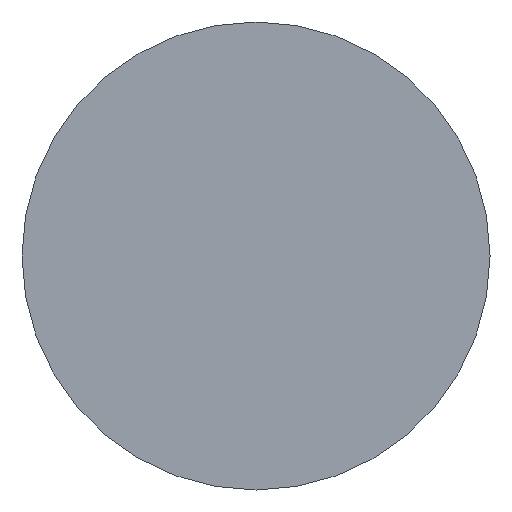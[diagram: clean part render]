
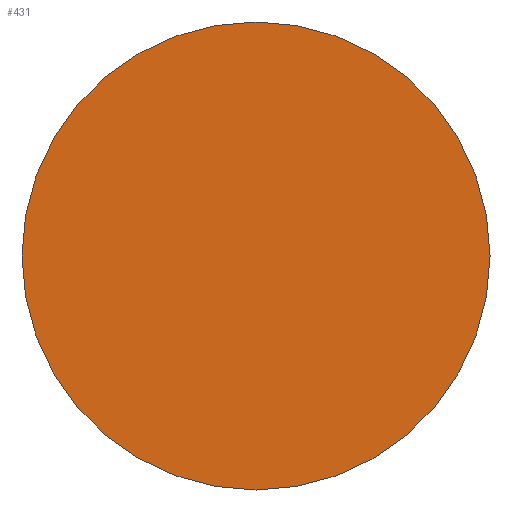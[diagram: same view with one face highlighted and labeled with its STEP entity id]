
A CAD part, front view. The second image highlights one B-rep face of the part: STEP entity #431.
In plain terms, the highlighted planar face has unit normal (0, -1, 0).
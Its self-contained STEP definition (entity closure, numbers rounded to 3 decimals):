
#431 = ADVANCED_FACE ( 'NONE', ( #763 ), #6604, .F. ) ;
#651 = AXIS2_PLACEMENT_3D ( 'NONE', #3267, #9782, #2495 ) ;
#763 = FACE_OUTER_BOUND ( 'NONE', #2066, .T. ) ;
#1671 = ORIENTED_EDGE ( 'NONE', *, *, #10964, .F. ) ;
#2066 = EDGE_LOOP ( 'NONE', ( #1671, #9691 ) ) ;
#2162 = CARTESIAN_POINT ( 'NONE',  ( 0., 0., 0. ) ) ;
#2235 = VERTEX_POINT ( 'NONE', #12047 ) ;
#2449 = CIRCLE ( 'NONE', #651, 30. ) ;
#2495 = DIRECTION ( 'NONE',  ( 0., 0., 1. ) ) ;
#2864 = DIRECTION ( 'NONE',  ( 0., 1., 0. ) ) ;
#3267 = CARTESIAN_POINT ( 'NONE',  ( 0., 0., 0. ) ) ;
#4523 = AXIS2_PLACEMENT_3D ( 'NONE', #10285, #2864, #9387 ) ;
#6394 = CIRCLE ( 'NONE', #10065, 30. ) ;
#6604 = PLANE ( 'NONE',  #4523 ) ;
#7830 = DIRECTION ( 'NONE',  ( 0., 0., 1. ) ) ;
#8073 = CARTESIAN_POINT ( 'NONE',  ( 0., 0., -30. ) ) ;
#8657 = DIRECTION ( 'NONE',  ( 0., 1., 0. ) ) ;
#9387 = DIRECTION ( 'NONE',  ( 0., 0., 1. ) ) ;
#9691 = ORIENTED_EDGE ( 'NONE', *, *, #10198, .F. ) ;
#9782 = DIRECTION ( 'NONE',  ( 0., 1., 0. ) ) ;
#10065 = AXIS2_PLACEMENT_3D ( 'NONE', #2162, #8657, #7830 ) ;
#10198 = EDGE_CURVE ( 'NONE', #2235, #10418, #6394, .T. ) ;
#10285 = CARTESIAN_POINT ( 'NONE',  ( 0., 0., 0. ) ) ;
#10418 = VERTEX_POINT ( 'NONE', #8073 ) ;
#10964 = EDGE_CURVE ( 'NONE', #10418, #2235, #2449, .T. ) ;
#12047 = CARTESIAN_POINT ( 'NONE',  ( 0., 0., 30. ) ) ;
